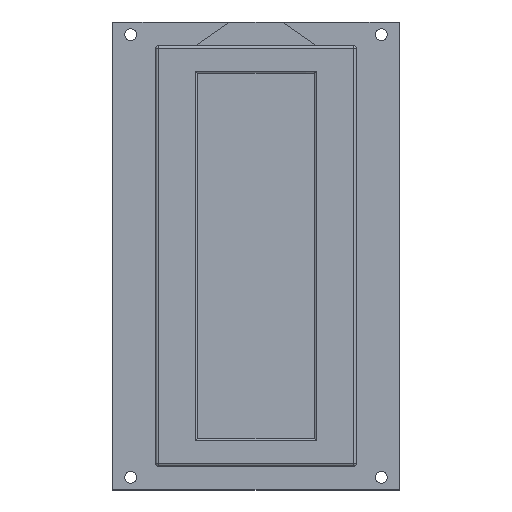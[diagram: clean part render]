
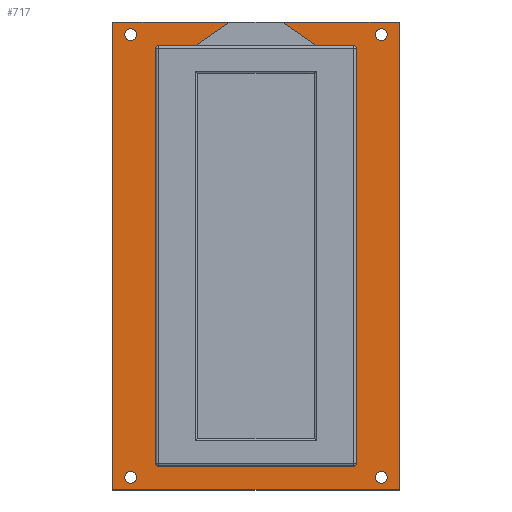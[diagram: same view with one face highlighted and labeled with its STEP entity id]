
A CAD part, top view. The second image highlights one B-rep face of the part: STEP entity #717.
In plain terms, the highlighted planar face has unit normal (0, 0, 1).
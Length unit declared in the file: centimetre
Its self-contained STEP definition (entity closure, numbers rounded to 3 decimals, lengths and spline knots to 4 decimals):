
#218=VERTEX_POINT('',#3184);
#220=VERTEX_POINT('',#3189);
#222=VERTEX_POINT('',#3194);
#224=VERTEX_POINT('',#3199);
#225=VERTEX_POINT('',#3202);
#226=VERTEX_POINT('',#3203);
#227=VERTEX_POINT('',#3205);
#228=VERTEX_POINT('',#3207);
#229=VERTEX_POINT('',#3209);
#230=VERTEX_POINT('',#3211);
#231=VERTEX_POINT('',#3212);
#232=VERTEX_POINT('',#3214);
#233=VERTEX_POINT('',#3216);
#234=VERTEX_POINT('',#3218);
#235=VERTEX_POINT('',#3220);
#236=VERTEX_POINT('',#3222);
#237=VERTEX_POINT('',#3224);
#238=VERTEX_POINT('',#3226);
#239=VERTEX_POINT('',#3228);
#240=VERTEX_POINT('',#3230);
#286=EDGE_CURVE('',#218,#218,#814,.T.);
#288=EDGE_CURVE('',#220,#220,#816,.T.);
#290=EDGE_CURVE('',#222,#222,#818,.T.);
#292=EDGE_CURVE('',#224,#224,#820,.T.);
#293=EDGE_CURVE('',#225,#226,#1503,.T.);
#294=EDGE_CURVE('',#227,#226,#1504,.T.);
#295=EDGE_CURVE('',#228,#227,#1505,.T.);
#296=EDGE_CURVE('',#229,#228,#1506,.T.);
#297=EDGE_CURVE('',#230,#229,#1507,.T.);
#298=EDGE_CURVE('',#231,#230,#1504,.T.);
#299=EDGE_CURVE('',#231,#232,#1508,.T.);
#300=EDGE_CURVE('',#232,#233,#1509,.T.);
#301=EDGE_CURVE('',#234,#233,#821,.F.);
#302=EDGE_CURVE('',#234,#235,#1510,.T.);
#303=EDGE_CURVE('',#236,#235,#822,.F.);
#304=EDGE_CURVE('',#236,#237,#1511,.T.);
#305=EDGE_CURVE('',#238,#237,#823,.F.);
#306=EDGE_CURVE('',#238,#239,#1512,.T.);
#307=EDGE_CURVE('',#240,#239,#824,.F.);
#308=EDGE_CURVE('',#240,#225,#1509,.T.);
#397=ORIENTED_EDGE('',*,*,#293,.T.);
#398=ORIENTED_EDGE('',*,*,#294,.F.);
#399=ORIENTED_EDGE('',*,*,#295,.F.);
#400=ORIENTED_EDGE('',*,*,#296,.F.);
#401=ORIENTED_EDGE('',*,*,#297,.F.);
#402=ORIENTED_EDGE('',*,*,#298,.F.);
#403=ORIENTED_EDGE('',*,*,#299,.T.);
#404=ORIENTED_EDGE('',*,*,#300,.T.);
#405=ORIENTED_EDGE('',*,*,#301,.F.);
#406=ORIENTED_EDGE('',*,*,#302,.T.);
#407=ORIENTED_EDGE('',*,*,#303,.F.);
#408=ORIENTED_EDGE('',*,*,#304,.T.);
#409=ORIENTED_EDGE('',*,*,#305,.F.);
#410=ORIENTED_EDGE('',*,*,#306,.T.);
#411=ORIENTED_EDGE('',*,*,#307,.F.);
#412=ORIENTED_EDGE('',*,*,#308,.T.);
#413=ORIENTED_EDGE('',*,*,#292,.T.);
#414=ORIENTED_EDGE('',*,*,#290,.T.);
#415=ORIENTED_EDGE('',*,*,#288,.T.);
#416=ORIENTED_EDGE('',*,*,#286,.T.);
#605=EDGE_LOOP('',(#397,#398,#399,#400,#401,#402,#403,#404,#405,#406,#407,
#408,#409,#410,#411,#412));
#606=EDGE_LOOP('',(#413));
#607=EDGE_LOOP('',(#414));
#608=EDGE_LOOP('',(#415));
#609=EDGE_LOOP('',(#416));
#663=FACE_BOUND('',#605,.T.);
#664=FACE_BOUND('',#606,.T.);
#665=FACE_BOUND('',#607,.T.);
#666=FACE_BOUND('',#608,.T.);
#667=FACE_BOUND('',#609,.T.);
#717=ADVANCED_FACE('',(#663,#664,#665,#666,#667),#2483,.T.);
#814=CIRCLE('',#2199,0.125);
#816=CIRCLE('',#2202,0.125);
#818=CIRCLE('',#2205,0.125);
#820=CIRCLE('',#2208,0.125);
#821=CIRCLE('',#2210,0.05);
#822=CIRCLE('',#2211,0.05);
#823=CIRCLE('',#2212,0.05);
#824=CIRCLE('',#2213,0.05);
#1503=LINE('',#3201,#2398);
#1504=LINE('',#3204,#2399);
#1505=LINE('',#3206,#2400);
#1506=LINE('',#3208,#2401);
#1507=LINE('',#3210,#2402);
#1508=LINE('',#3213,#2403);
#1509=LINE('',#3215,#2404);
#1510=LINE('',#3219,#2405);
#1511=LINE('',#3223,#2406);
#1512=LINE('',#3227,#2407);
#2199=AXIS2_PLACEMENT_3D('',#3183,#2742,#2743);
#2202=AXIS2_PLACEMENT_3D('',#3188,#2748,#2749);
#2205=AXIS2_PLACEMENT_3D('',#3193,#2754,#2755);
#2208=AXIS2_PLACEMENT_3D('',#3198,#2760,#2761);
#2209=AXIS2_PLACEMENT_3D('',#3200,#2762,$);
#2210=AXIS2_PLACEMENT_3D('',#3217,#2770,#2771);
#2211=AXIS2_PLACEMENT_3D('',#3221,#2773,#2774);
#2212=AXIS2_PLACEMENT_3D('',#3225,#2776,#2777);
#2213=AXIS2_PLACEMENT_3D('',#3229,#2779,#2780);
#2398=VECTOR('',#2763,1.);
#2399=VECTOR('',#2764,1.);
#2400=VECTOR('',#2765,1.);
#2401=VECTOR('',#2766,1.);
#2402=VECTOR('',#2767,1.);
#2403=VECTOR('',#2768,1.);
#2404=VECTOR('',#2769,1.);
#2405=VECTOR('',#2772,1.);
#2406=VECTOR('',#2775,1.);
#2407=VECTOR('',#2778,1.);
#2483=PLANE('',#2209);
#2742=DIRECTION('',(0.,0.,-1.));
#2743=DIRECTION('',(0.125,0.,0.));
#2748=DIRECTION('',(0.,0.,-1.));
#2749=DIRECTION('',(0.125,0.,0.));
#2754=DIRECTION('',(0.,0.,-1.));
#2755=DIRECTION('',(0.125,0.,0.));
#2760=DIRECTION('',(0.,0.,-1.));
#2761=DIRECTION('',(0.125,0.,0.));
#2762=DIRECTION('',(0.,0.,1.));
#2763=DIRECTION('',(0.823,0.568,0.));
#2764=DIRECTION('',(1.,0.,0.));
#2765=DIRECTION('',(0.,1.,0.));
#2766=DIRECTION('',(-1.,0.,0.));
#2767=DIRECTION('',(0.,-1.,0.));
#2768=DIRECTION('',(0.823,-0.568,0.));
#2769=DIRECTION('',(1.,0.,0.));
#2770=DIRECTION('',(0.,0.,-1.));
#2771=DIRECTION('',(0.035,0.035,0.));
#2772=DIRECTION('',(0.,-1.,0.));
#2773=DIRECTION('',(0.,0.,-1.));
#2774=DIRECTION('',(0.035,-0.035,0.));
#2775=DIRECTION('',(-1.,0.,0.));
#2776=DIRECTION('',(0.,0.,-1.));
#2777=DIRECTION('',(-0.035,-0.035,0.));
#2778=DIRECTION('',(0.,1.,0.));
#2779=DIRECTION('',(0.,0.,-1.));
#2780=DIRECTION('',(-0.035,0.035,0.));
#3183=CARTESIAN_POINT('',(5.125,-0.485,1.37));
#3184=CARTESIAN_POINT('',(5.,-0.485,1.37));
#3188=CARTESIAN_POINT('',(5.125,8.785,1.37));
#3189=CARTESIAN_POINT('',(5.,8.785,1.37));
#3193=CARTESIAN_POINT('',(-0.125,8.785,1.37));
#3194=CARTESIAN_POINT('',(-0.25,8.785,1.37));
#3198=CARTESIAN_POINT('',(-0.125,-0.485,1.37));
#3199=CARTESIAN_POINT('',(-0.25,-0.485,1.37));
#3200=CARTESIAN_POINT('',(2.5,4.15,1.37));
#3201=CARTESIAN_POINT('',(0.8101,8.2638,1.37));
#3202=CARTESIAN_POINT('',(1.225,8.55,1.37));
#3203=CARTESIAN_POINT('',(1.95,9.05,1.37));
#3204=CARTESIAN_POINT('',(-0.5,9.05,1.37));
#3205=CARTESIAN_POINT('',(-0.5,9.05,1.37));
#3206=CARTESIAN_POINT('',(-0.5,-0.75,1.37));
#3207=CARTESIAN_POINT('',(-0.5,-0.75,1.37));
#3208=CARTESIAN_POINT('',(5.5,-0.75,1.37));
#3209=CARTESIAN_POINT('',(5.5,-0.75,1.37));
#3210=CARTESIAN_POINT('',(5.5,9.05,1.37));
#3211=CARTESIAN_POINT('',(5.5,9.05,1.37));
#3212=CARTESIAN_POINT('',(3.05,9.05,1.37));
#3213=CARTESIAN_POINT('',(4.1899,8.2638,1.37));
#3214=CARTESIAN_POINT('',(3.775,8.55,1.37));
#3215=CARTESIAN_POINT('',(2.5,8.55,1.37));
#3216=CARTESIAN_POINT('',(4.55,8.55,1.37));
#3217=CARTESIAN_POINT('',(4.55,8.5,1.37));
#3218=CARTESIAN_POINT('',(4.6,8.5,1.37));
#3219=CARTESIAN_POINT('',(4.6,4.15,1.37));
#3220=CARTESIAN_POINT('',(4.6,-0.2,1.37));
#3221=CARTESIAN_POINT('',(4.55,-0.2,1.37));
#3222=CARTESIAN_POINT('',(4.55,-0.25,1.37));
#3223=CARTESIAN_POINT('',(2.5,-0.25,1.37));
#3224=CARTESIAN_POINT('',(0.45,-0.25,1.37));
#3225=CARTESIAN_POINT('',(0.45,-0.2,1.37));
#3226=CARTESIAN_POINT('',(0.4,-0.2,1.37));
#3227=CARTESIAN_POINT('',(0.4,4.15,1.37));
#3228=CARTESIAN_POINT('',(0.4,8.5,1.37));
#3229=CARTESIAN_POINT('',(0.45,8.5,1.37));
#3230=CARTESIAN_POINT('',(0.45,8.55,1.37));
